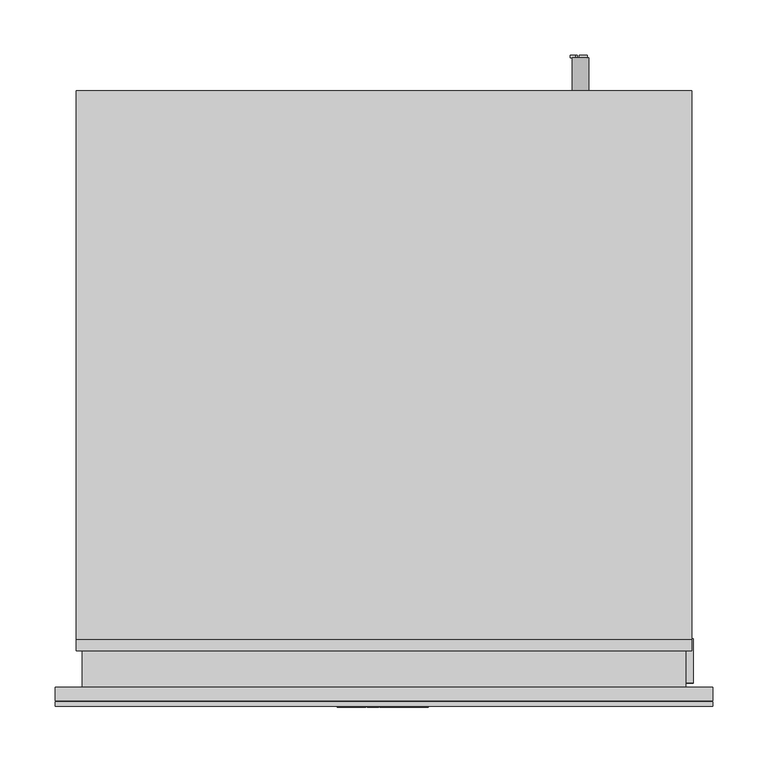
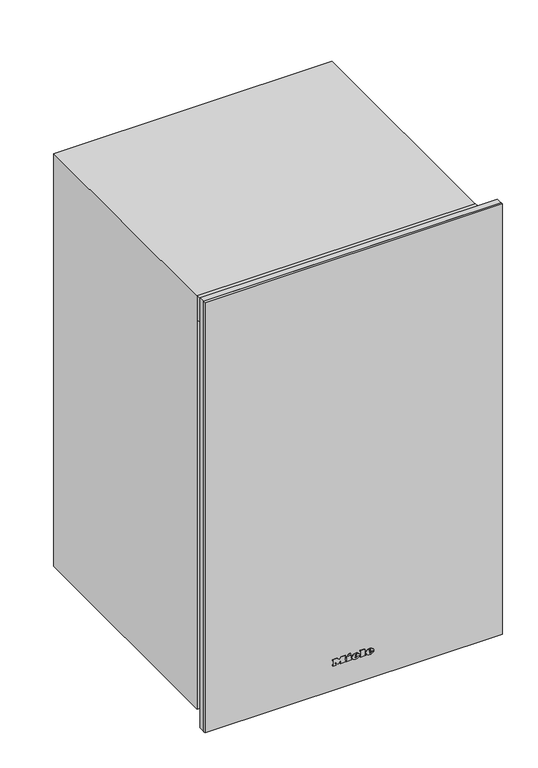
"""IFC4 building model written with IfcOpenShell, lengths in millimetres: proxy geometry, 12615910_EU1_KWT6422iG-1_PEBE : 36642228_EU1_12615910_KWT6422iG-1_PEBE."""

import ifcopenshell
import ifcopenshell.guid

model = None  # the IFC model being written
_history = None  # IfcOwnerHistory: only IFC2X3 demands one
_inside = {}  # id of a spatial element -> (the spatial element, [elements in it])
_under = {}  # id of a project, library or spatial element -> (it, [spatial elements below it])
_declared = {}  # id of a project -> (the project, [libraries it declares])
_typed = {}  # id of a type object -> (the type object, [elements of that type])
_made_of = {}  # id of a material, layer set ... -> (it, [elements and type objects made of it])


def new_model(schema):
    """Start an empty IFC model of exactly this schema.

    Asked for "IFC4X3", IfcOpenShell would pick the latest addendum, in which some entities
    have other attributes; the version numbers below select the first issue.
    IFC2X3 requires an IfcOwnerHistory on every rooted entity: one is made here for all.
    """
    global model, _history
    if schema == "IFC4X3":
        model = ifcopenshell.file(schema_version=(4, 3, 0, 0))
    else:
        model = ifcopenshell.file(schema=schema)
    _inside.clear()
    _under.clear()
    _declared.clear()
    _typed.clear()
    _made_of.clear()
    _history = None
    if model.schema == "IFC2X3":
        org = make("IfcOrganization", Name="unknown")
        user = make(
            "IfcPersonAndOrganization",
            ThePerson=make("IfcPerson", FamilyName="unknown"),
            TheOrganization=org,
        )
        app = make(
            "IfcApplication",
            ApplicationDeveloper=org,
            Version="unknown",
            ApplicationFullName="unknown",
            ApplicationIdentifier="unknown",
        )
        _history = make(
            "IfcOwnerHistory",
            OwningUser=user,
            OwningApplication=app,
            ChangeAction="ADDED",
            CreationDate=0,
        )
    return model


def make(cls, **values):
    """One entity of the class cls with the attributes given. An attribute that is None is left unset."""
    return model.create_entity(
        cls, **{name: value for name, value in values.items() if value is not None}
    )


def rooted(cls, **values):
    """An entity with a GlobalId (a new one), such as an element, a storey or a relation."""
    return make(cls, GlobalId=ifcopenshell.guid.new(), OwnerHistory=_history, **values)


def si_unit(unit_type, name, prefix=None):
    """IfcSIUnit, for example si_unit("LENGTHUNIT", "METRE", prefix="MILLI")."""
    return make("IfcSIUnit", UnitType=unit_type, Prefix=prefix, Name=name)


def assignment(units):
    """IfcUnitAssignment: the units of a project."""
    return None if units is None else make("IfcUnitAssignment", Units=units)


def point(xyz):
    """IfcCartesianPoint."""
    return None if xyz is None else make("IfcCartesianPoint", Coordinates=xyz)


def direction(xyz):
    """IfcDirection."""
    return None if xyz is None else make("IfcDirection", DirectionRatios=xyz)


def frame(location, z_axis=None, x_axis=None):
    """IfcAxis2Placement3D, a coordinate frame: its origin and axes. An axis left out is left unset."""
    return make(
        "IfcAxis2Placement3D",
        Location=point(location),
        Axis=direction(z_axis),
        RefDirection=direction(x_axis),
    )


def frame_2d(location, x_axis=None):
    """IfcAxis2Placement2D, a coordinate frame in the plane: its origin and x axis."""
    return make(
        "IfcAxis2Placement2D", Location=point(location), RefDirection=direction(x_axis)
    )


def origin():
    """The frame at (0, 0, 0) with its axes left unset."""
    return frame((0.0, 0.0, 0.0))


def place(relative_to, where):
    """IfcLocalPlacement: puts the frame where relative to a parent placement (None: the world)."""
    return make(
        "IfcLocalPlacement", PlacementRelTo=relative_to, RelativePlacement=where
    )


def context(
    kind, dimensions, precision=None, world=None, true_north=None, identifier=None
):
    """IfcGeometricRepresentationContext, for example the 3D "Model" context."""
    return make(
        "IfcGeometricRepresentationContext",
        ContextIdentifier=identifier,
        ContextType=kind,
        CoordinateSpaceDimension=dimensions,
        Precision=precision,
        WorldCoordinateSystem=world,
        TrueNorth=true_north,
    )


def project(units=None, contexts=None):
    """IfcProject with its units and contexts."""
    return rooted(
        "IfcProject",
        Name="project",
        RepresentationContexts=contexts,
        UnitsInContext=assignment(units),
    )


def spatial(cls, under=None, at=None, **own):
    """A site, building, storey or space (cls), placed at a placement, below another one or the project."""
    s = rooted(cls, ObjectPlacement=at, **own)
    if under is not None:
        _under.setdefault(under.id(), (under, []))[1].append(s)
    return s


def polyline(points):
    """IfcPolyline through the points."""
    return make("IfcPolyline", Points=[point(p) for p in points])


def circle_curve(where, radius):
    """IfcCircle in the frame where."""
    return make("IfcCircle", Position=where, Radius=radius)


def ellipse_curve(where, semi_axis1, semi_axis2):
    """IfcEllipse in the frame where."""
    return make(
        "IfcEllipse", Position=where, SemiAxis1=semi_axis1, SemiAxis2=semi_axis2
    )


def trimmed(basis, trim1, trim2, sense, master):
    """IfcTrimmedCurve: the piece of a basis curve between two trims."""
    return make(
        "IfcTrimmedCurve",
        BasisCurve=basis,
        Trim1=trim1,
        Trim2=trim2,
        SenseAgreement=sense,
        MasterRepresentation=master,
    )


def segment(curve, same_sense, transition):
    """IfcCompositeCurveSegment."""
    return make(
        "IfcCompositeCurveSegment",
        Transition=transition,
        SameSense=same_sense,
        ParentCurve=curve,
    )


def composite_curve(segments, self_intersect=None):
    """IfcCompositeCurve: segments joined end to end."""
    return make("IfcCompositeCurve", Segments=segments, SelfIntersect=self_intersect)


def outline(outer, holes=None, kind="AREA"):
    """IfcArbitraryClosedProfileDef: a profile drawn as a closed curve; with holes, ...WithVoids."""
    if holes is None:
        return make("IfcArbitraryClosedProfileDef", ProfileType=kind, OuterCurve=outer)
    return make(
        "IfcArbitraryProfileDefWithVoids",
        ProfileType=kind,
        OuterCurve=outer,
        InnerCurves=holes,
    )


def extrude(swept, where, along, depth):
    """IfcExtrudedAreaSolid: the profile swept, set in the frame where, extruded along a direction by depth."""
    return make(
        "IfcExtrudedAreaSolid",
        SweptArea=swept,
        Position=where,
        ExtrudedDirection=direction(along),
        Depth=depth,
    )


def faces_of(points, faces, orient=None, outer=None):
    """IfcFace entities. A face is a list of loops; a loop is a list of indices into points, from 0.

    orient and outer hold one flag for each loop. By default every Orientation is true, the
    first loop of a face is its IfcFaceOuterBound and the others are IfcFaceBound.
    """
    made = []
    for i, loops in enumerate(faces):
        bounds = []
        for j, loop in enumerate(loops):
            is_outer = j == 0 if outer is None else outer[i][j]
            bounds.append(
                make(
                    "IfcFaceOuterBound" if is_outer else "IfcFaceBound",
                    Bound=make("IfcPolyLoop", Polygon=[points[k] for k in loop]),
                    Orientation=True if orient is None else orient[i][j],
                )
            )
        made.append(make("IfcFace", Bounds=bounds))
    return made


def faceted_brep(points, faces, orient=None, outer=None, voids=None):
    """IfcFacetedBrep: a solid bounded by flat faces; with voids (closed shells), ...WithVoids."""
    shared = [point(p) for p in points]
    hull = make("IfcClosedShell", CfsFaces=faces_of(shared, faces, orient, outer))
    if voids is None:
        return make("IfcFacetedBrep", Outer=hull)
    return make(
        "IfcFacetedBrepWithVoids",
        Outer=hull,
        Voids=[
            make(cls, CfsFaces=faces_of(shared, fs, o, b)) for cls, fs, o, b in voids
        ],
    )


def shape(context_of_items, identifier, shape_type, items):
    """IfcShapeRepresentation: the items that make up one representation, for example the "Body"."""
    return make(
        "IfcShapeRepresentation",
        ContextOfItems=context_of_items,
        RepresentationIdentifier=identifier,
        RepresentationType=shape_type,
        Items=items,
    )


def source(mapping_origin, context_of_items, identifier, shape_type, items):
    """IfcRepresentationMap: a shape defined once, which mapped items show again and again."""
    return make(
        "IfcRepresentationMap",
        MappingOrigin=mapping_origin,
        MappedRepresentation=shape(context_of_items, identifier, shape_type, items),
    )


def transform(
    local_origin,
    x_axis=None,
    y_axis=None,
    z_axis=None,
    scale=None,
    scale2=None,
    scale3=None,
    uniform=True,
):
    """IfcCartesianTransformationOperator3D, or its non-uniform kind. x_axis, y_axis, z_axis: its Axis1, 2, 3."""
    if uniform:
        return make(
            "IfcCartesianTransformationOperator3D",
            Axis1=direction(x_axis),
            Axis2=direction(y_axis),
            LocalOrigin=point(local_origin),
            Scale=scale,
            Axis3=direction(z_axis),
        )
    return make(
        "IfcCartesianTransformationOperator3DnonUniform",
        Axis1=direction(x_axis),
        Axis2=direction(y_axis),
        LocalOrigin=point(local_origin),
        Scale=scale,
        Axis3=direction(z_axis),
        Scale2=scale2,
        Scale3=scale3,
    )


def mapped(mapping_source, mapping_target):
    """IfcMappedItem: shows the shape of a source again, moved by a transform."""
    return make(
        "IfcMappedItem", MappingSource=mapping_source, MappingTarget=mapping_target
    )


def made_of(thing, what):
    """Note that an element or type object is made of a material, layer set ...; save() writes the relation."""
    if what is not None:
        _made_of.setdefault(what.id(), (what, []))[1].append(thing)
    return thing


def element(
    cls,
    number,
    at=None,
    inside=None,
    cuts=None,
    type_object=None,
    material=None,
    context=None,
    identifier="Body",
    shape_type=None,
    held_by="IfcProductDefinitionShape",
    body=None,
    shapes=None,
    **own,
):
    """One element of the class cls, such as IfcWall. Its Tag is "e" and its number.

    at: its placement. inside: the storey or other place that contains it. cuts: it is an
    opening in that element (IfcRelVoidsElement). A single representation is given by context,
    identifier, shape_type and body (its items); several are given by shapes. held_by: the class
    of the entity that holds the representations. save() writes the other relations.
    """
    e = rooted(cls, Tag="e%d" % number, ObjectPlacement=at, **own)
    if body is not None:
        shapes = [shape(context, identifier, shape_type, body)]
    if shapes is not None:
        e.Representation = make(held_by, Representations=shapes)
    if inside is not None:
        _inside.setdefault(inside.id(), (inside, []))[1].append(e)
    if cuts is not None:
        rooted(
            "IfcRelVoidsElement", RelatingBuildingElement=cuts, RelatedOpeningElement=e
        )
    if type_object is not None:
        _typed.setdefault(type_object.id(), (type_object, []))[1].append(e)
    return made_of(e, material)


def aggregate(whole, parts):
    """IfcRelAggregates: a whole, such as a stair, and the parts it consists of."""
    return rooted("IfcRelAggregates", RelatingObject=whole, RelatedObjects=parts)


def save(model, path):
    """Write the relations noted so far, then the file.

    IfcRelAggregates (storeys below a building ...), IfcRelContainedInSpatialStructure (elements
    in a storey), IfcRelDefinesByType, IfcRelAssociatesMaterial and IfcRelDeclares: one each for
    every whole, place, type object, material and project.
    """
    for whole, parts in _under.values():
        aggregate(whole, parts)
    for where, things in _inside.values():
        rooted(
            "IfcRelContainedInSpatialStructure",
            RelatedElements=things,
            RelatingStructure=where,
        )
    for kind, things in _typed.values():
        rooted("IfcRelDefinesByType", RelatedObjects=things, RelatingType=kind)
    for what, things in _made_of.values():
        rooted("IfcRelAssociatesMaterial", RelatedObjects=things, RelatingMaterial=what)
    for by, libraries in _declared.values():
        rooted("IfcRelDeclares", RelatingContext=by, RelatedDefinitions=libraries)
    model.write(path)


def plane_surface(at):
    """IfcPlane: the flat surface through the origin of the frame at, square to its z axis."""
    return make("IfcPlane", Position=at)


def cylinder_surface(at, radius):
    """IfcCylindricalSurface: all points at the distance radius from the z axis of the frame at."""
    return make("IfcCylindricalSurface", Position=at, Radius=radius)


def revolved_surface(curve, axis_point, axis_direction):
    """IfcSurfaceOfRevolution: the curve turned about the line through axis_point along axis_direction."""
    return make(
        "IfcSurfaceOfRevolution",
        SweptCurve=make("IfcArbitraryOpenProfileDef", ProfileType="CURVE", Curve=curve),
        AxisPosition=make("IfcAxis1Placement", Location=point(axis_point), Axis=direction(axis_direction)),
    )


def extruded_surface(curve, direction_of_extrusion, depth):
    """IfcSurfaceOfLinearExtrusion: the curve pushed along a direction by depth."""
    return make(
        "IfcSurfaceOfLinearExtrusion",
        SweptCurve=make("IfcArbitraryOpenProfileDef", ProfileType="CURVE", Curve=curve),
        ExtrudedDirection=direction(direction_of_extrusion),
        Depth=depth,
    )


def advanced_brep(points, edges, surfaces, faces):
    """IfcAdvancedBrep: a solid bounded by faces that lie on surfaces and meet in shared edges.

    An edge is (start, end): straight between two places in points (the first is 0);
    or (start, end, curve); or (start, end, curve, False) where it runs against its curve.
    A face is (place in surfaces, loops), or (place, loops, False) where it looks against
    its surface's normal. A loop lists edges by number (the first is 1), with a minus sign
    where the edge is run from its end to its start. The first loop is the outer one.
    """
    corners = [point(p) for p in points]
    vertices = [make("IfcVertexPoint", VertexGeometry=c) for c in corners]
    made = []
    for start, end, *more in edges:
        made.append(
            make(
                "IfcEdgeCurve",
                EdgeStart=vertices[start],
                EdgeEnd=vertices[end],
                EdgeGeometry=more[0] if more else make("IfcPolyline", Points=[corners[start], corners[end]]),
                SameSense=more[1] if len(more) > 1 else True,
            )
        )
    hull = []
    for where, loops, *sense in faces:
        bounds = []
        for j, loop in enumerate(loops):
            ring = [make("IfcOrientedEdge", EdgeElement=made[abs(k) - 1], Orientation=k > 0) for k in loop]
            bounds.append(
                make(
                    "IfcFaceOuterBound" if j == 0 else "IfcFaceBound",
                    Bound=make("IfcEdgeLoop", EdgeList=ring),
                    Orientation=True,
                )
            )
        hull.append(make("IfcAdvancedFace", Bounds=bounds, FaceSurface=surfaces[where], SameSense=sense[0] if sense else True))
    return make("IfcAdvancedBrep", Outer=make("IfcClosedShell", CfsFaces=hull))


def specialty_equipment_434683bb(model_context):
    return source(origin(), model_context, "Body", "SolidModel", [
        advanced_brep(
        [(30.9909978, -1.0, 48.1245173), (30.9909978, -1.0, 49.4880173), (40.0224978, -1.0, 49.4880173), (24.3084978, -1.0, 49.4880173), (28.0209978, -1.0, 44.9250173), (39.7929978, -1.0, 48.1245173), (35.7159978, -1.0, 48.1245173), (32.5029978, -1.0, 46.6125173), (30.9909978, -1.0, 51.2160173), (30.9909978, -1.0, 52.6875173), (33.2994978, -1.0, 52.6875173), (33.2994978, -1.0, 51.2160173), (30.9909978, 0.0, 48.1245173), (32.5029978, 0.0, 46.6125173), (35.7159978, 0.0, 48.1245173), (39.7929978, 0.0, 48.1245173), (28.0209978, 0.0, 44.9250173), (24.3084978, 0.0, 49.4880173), (40.0224978, 0.0, 49.4880173), (30.9909978, 0.0, 49.4880173), (30.9909978, 0.0, 51.2160173), (33.2994978, 0.0, 51.2160173), (33.2994978, 0.0, 52.6875173), (30.9909978, 0.0, 52.6875173)],
        [
            (0, 1),
            (1, 2),
            (2, 3, ellipse_curve(frame((32.1654978, -1.0, 49.4880173), z_axis=(0.0, -1.0, 0.0), x_axis=(-1.0, 0.0, 0.0)), 7.857, 6.4935)),
            (3, 4, circle_curve(frame((29.5330714, -1.0, 49.9470173), z_axis=(0.0, -1.0, 0.0), x_axis=(0.0, 0.0, -1.0)), 5.2446974)),
            (4, 5, circle_curve(frame((32.008212, -1.0, 53.5110173), z_axis=(0.0, -1.0, 0.0), x_axis=(0.0, 0.0, -1.0)), 9.46664)),
            (5, 6),
            (6, 7, circle_curve(frame((33.1629096, -1.0, 49.3800173), z_axis=(0.0, 1.0, 0.0), x_axis=(0.0, 0.0, -1.0)), 2.8450905)),
            (7, 0, circle_curve(frame((32.5029978, -1.0, 48.1245173), z_axis=(0.0, 1.0, 0.0), x_axis=(0.0, 0.0, -1.0)), 1.512)),
            (8, 9),
            (9, 10, circle_curve(frame((32.1452478, -1.0, 52.6875173), z_axis=(0.0, 1.0, 0.0), x_axis=(0.0, 0.0, -1.0)), 1.15425)),
            (10, 11),
            (11, 8),
            (12, 13, circle_curve(frame((32.5029978, 0.0, 48.1245173), z_axis=(0.0, -1.0, 0.0), x_axis=(0.0, 0.0, -1.0)), 1.512)),
            (13, 14, circle_curve(frame((33.1629096, 0.0, 49.3800173), z_axis=(0.0, -1.0, 0.0), x_axis=(0.0, 0.0, -1.0)), 2.8450905)),
            (14, 15),
            (15, 16, circle_curve(frame((32.008212, 0.0, 53.5110173), z_axis=(0.0, 1.0, 0.0), x_axis=(0.0, 0.0, -1.0)), 9.46664)),
            (16, 17, circle_curve(frame((29.5330714, 0.0, 49.9470173), z_axis=(0.0, 1.0, 0.0), x_axis=(0.0, 0.0, -1.0)), 5.2446974)),
            (17, 18, ellipse_curve(frame((32.1654978, 0.0, 49.4880173), z_axis=(0.0, 1.0, 0.0), x_axis=(-1.0, 0.0, 0.0)), 7.857, 6.4935)),
            (18, 19),
            (19, 12),
            (20, 21),
            (21, 22),
            (22, 23, circle_curve(frame((32.1452478, 0.0, 52.6875173), z_axis=(0.0, -1.0, 0.0), x_axis=(0.0, 0.0, -1.0)), 1.15425)),
            (23, 20),
            (0, 12),
            (19, 1),
            (18, 2),
            (5, 15),
            (14, 6),
            (17, 3),
            (13, 7),
            (16, 4),
            (8, 20),
            (23, 9),
            (22, 10),
            (21, 11),
        ],
        [
            plane_surface(frame((30.9909978, -1.0, 49.4880173), z_axis=(0.0, -1.0, 0.0), x_axis=(0.0, 0.0, 1.0))),
            plane_surface(frame((30.9909978, 0.0, 49.4880173), z_axis=(0.0, 1.0, 0.0), x_axis=(0.0, 0.0, -1.0))),
            plane_surface(frame((30.9909978, -1.0, 48.1245173), z_axis=(1.0, 0.0, 0.0), x_axis=(0.0, 1.0, 0.0))),
            plane_surface(frame((30.9909978, -1.0, 49.4880173), z_axis=(0.0, 0.0, -1.0), x_axis=(0.0, 1.0, 0.0))),
            plane_surface(frame((39.7929978, -1.0, 48.1245173), z_axis=(0.0, 0.0, 1.0), x_axis=(0.0, 1.0, 0.0))),
            extruded_surface(trimmed(ellipse_curve(frame((32.1654978, 1.0, 49.4880173), z_axis=(0.0, -1.0, 0.0), x_axis=(-1.0, 0.0, 0.0)), 7.857, 6.4935), [point((40.0224978, 1.0, 49.4880173))], [point((24.3084978, 1.0, 49.4880173))], True, "CARTESIAN"), (0.0, -1.0, 0.0), 1.0),
            revolved_surface(polyline([(33.1629096, 0.0, 46.5349268), (33.1629096, -1.0, 46.5349268)]), (33.1629096, 0.0, 49.3800173), (0.0, 1.0, 0.0)),
            revolved_surface(polyline([(32.5029978, 0.0, 46.6125173), (32.5029978, -1.0, 46.6125173)]), (32.5029978, 0.0, 48.1245173), (0.0, 1.0, 0.0)),
            cylinder_surface(frame((29.5330714, 0.0, 49.9470173), z_axis=(0.0, -1.0, 0.0), x_axis=(0.0, 0.0, -1.0)), 5.2446974),
            cylinder_surface(frame((32.008212, 0.0, 53.5110173), z_axis=(0.0, -1.0, 0.0), x_axis=(0.0, 0.0, -1.0)), 9.46664),
            plane_surface(frame((30.9909978, -1.0, 51.2160173), z_axis=(1.0, 0.0, 0.0), x_axis=(0.0, 1.0, 0.0))),
            revolved_surface(polyline([(32.1452478, 0.0, 51.533267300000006), (32.1452478, -1.0, 51.533267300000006)]), (32.1452478, 0.0, 52.6875173), (0.0, 1.0, 0.0)),
            plane_surface(frame((33.2994978, -1.0, 52.6875173), z_axis=(-1.0, 0.0, 0.0), x_axis=(0.0, 1.0, 0.0))),
            plane_surface(frame((33.2994978, -1.0, 51.2160173), z_axis=(0.0, 0.0, 1.0), x_axis=(0.0, 1.0, 0.0))),
        ],
        [
            (0, [[1, 2, 3, 4, 5, 6, 7, 8], [9, 10, 11, 12]]),
            (1, [[13, 14, 15, 16, 17, 18, 19, 20], [21, 22, 23, 24]]),
            (2, [[-1, 25, -20, 26]]),
            (3, [[-2, -26, -19, 27]]),
            (4, [[-6, 28, -15, 29]]),
            (5, [[-3, -27, -18, 30]]),
            (6, [[-7, -29, -14, 31]]),
            (7, [[-8, -31, -13, -25]]),
            (8, [[-4, -30, -17, 32]]),
            (9, [[-5, -32, -16, -28]]),
            (10, [[-9, 33, -24, 34]]),
            (11, [[-10, -34, -23, 35]]),
            (12, [[-11, -35, -22, 36]]),
            (13, [[-12, -36, -21, -33]]),
        ],
    ),
        advanced_brep(
        [(2.8164978, -1.0, 48.1245173), (2.8164978, -1.0, 49.4880173), (11.8479978, -1.0, 49.4880173), (-3.8660022, -1.0, 49.4880173), (-0.1535022, -1.0, 44.9250173), (11.6184978, -1.0, 48.1245173), (7.5414978, -1.0, 48.1245173), (4.3284978, -1.0, 46.6125173), (2.8164978, -1.0, 51.2160173), (2.8164978, -1.0, 52.6875173), (5.1249978, -1.0, 52.6875173), (5.1249978, -1.0, 51.2160173), (2.8164978, 0.0, 48.1245173), (4.3284978, 0.0, 46.6125173), (7.5414978, 0.0, 48.1245173), (11.6184978, 0.0, 48.1245173), (-0.1535022, 0.0, 44.9250173), (-3.8660022, 0.0, 49.4880173), (11.8479978, 0.0, 49.4880173), (2.8164978, 0.0, 49.4880173), (2.8164978, 0.0, 51.2160173), (5.1249978, 0.0, 51.2160173), (5.1249978, 0.0, 52.6875173), (2.8164978, 0.0, 52.6875173)],
        [
            (0, 1),
            (1, 2),
            (2, 3, ellipse_curve(frame((3.9909978, -1.0, 49.4880173), z_axis=(0.0, -1.0, 0.0), x_axis=(-1.0, 0.0, 0.0)), 7.857, 6.4935)),
            (3, 4, circle_curve(frame((1.3585714, -1.0, 49.9470173), z_axis=(0.0, -1.0, 0.0), x_axis=(0.0, 0.0, -1.0)), 5.2446974)),
            (4, 5, circle_curve(frame((3.833712, -1.0, 53.5110173), z_axis=(0.0, -1.0, 0.0), x_axis=(0.0, 0.0, -1.0)), 9.46664)),
            (5, 6),
            (6, 7, circle_curve(frame((4.9884096, -1.0, 49.3800173), z_axis=(0.0, 1.0, 0.0), x_axis=(0.0, 0.0, -1.0)), 2.8450905)),
            (7, 0, circle_curve(frame((4.3284978, -1.0, 48.1245173), z_axis=(0.0, 1.0, 0.0), x_axis=(0.0, 0.0, -1.0)), 1.512)),
            (8, 9),
            (9, 10, circle_curve(frame((3.9707478, -1.0, 52.6875173), z_axis=(0.0, 1.0, 0.0), x_axis=(0.0, 0.0, -1.0)), 1.15425)),
            (10, 11),
            (11, 8),
            (12, 13, circle_curve(frame((4.3284978, 0.0, 48.1245173), z_axis=(0.0, -1.0, 0.0), x_axis=(0.0, 0.0, -1.0)), 1.512)),
            (13, 14, circle_curve(frame((4.9884096, 0.0, 49.3800173), z_axis=(0.0, -1.0, 0.0), x_axis=(0.0, 0.0, -1.0)), 2.8450905)),
            (14, 15),
            (15, 16, circle_curve(frame((3.833712, 0.0, 53.5110173), z_axis=(0.0, 1.0, 0.0), x_axis=(0.0, 0.0, -1.0)), 9.46664)),
            (16, 17, circle_curve(frame((1.3585714, 0.0, 49.9470173), z_axis=(0.0, 1.0, 0.0), x_axis=(0.0, 0.0, -1.0)), 5.2446974)),
            (17, 18, ellipse_curve(frame((3.9909978, 0.0, 49.4880173), z_axis=(0.0, 1.0, 0.0), x_axis=(-1.0, 0.0, 0.0)), 7.857, 6.4935)),
            (18, 19),
            (19, 12),
            (20, 21),
            (21, 22),
            (22, 23, circle_curve(frame((3.9707478, 0.0, 52.6875173), z_axis=(0.0, -1.0, 0.0), x_axis=(0.0, 0.0, -1.0)), 1.15425)),
            (23, 20),
            (0, 12),
            (19, 1),
            (18, 2),
            (5, 15),
            (14, 6),
            (17, 3),
            (13, 7),
            (16, 4),
            (8, 20),
            (23, 9),
            (22, 10),
            (21, 11),
        ],
        [
            plane_surface(frame((2.8164978, -1.0, 49.4880173), z_axis=(0.0, -1.0, 0.0), x_axis=(0.0, 0.0, 1.0))),
            plane_surface(frame((2.8164978, 0.0, 49.4880173), z_axis=(0.0, 1.0, 0.0), x_axis=(0.0, 0.0, -1.0))),
            plane_surface(frame((2.8164978, -1.0, 48.1245173), z_axis=(1.0, 0.0, 0.0), x_axis=(0.0, 1.0, 0.0))),
            plane_surface(frame((2.8164978, -1.0, 49.4880173), z_axis=(0.0, 0.0, -1.0), x_axis=(0.0, 1.0, 0.0))),
            plane_surface(frame((11.6184978, -1.0, 48.1245173), z_axis=(0.0, 0.0, 1.0), x_axis=(0.0, 1.0, 0.0))),
            extruded_surface(trimmed(ellipse_curve(frame((3.9909978, 1.0, 49.4880173), z_axis=(0.0, -1.0, 0.0), x_axis=(-1.0, 0.0, 0.0)), 7.857, 6.4935), [point((11.8479978, 1.0, 49.4880173))], [point((-3.8660022, 1.0, 49.4880173))], True, "CARTESIAN"), (0.0, -1.0, 0.0), 1.0),
            revolved_surface(polyline([(4.9884096, 0.0, 46.5349268), (4.9884096, -1.0, 46.5349268)]), (4.9884096, 0.0, 49.3800173), (0.0, 1.0, 0.0)),
            revolved_surface(polyline([(4.3284978, 0.0, 46.6125173), (4.3284978, -1.0, 46.6125173)]), (4.3284978, 0.0, 48.1245173), (0.0, 1.0, 0.0)),
            cylinder_surface(frame((1.3585714, 0.0, 49.9470173), z_axis=(0.0, -1.0, 0.0), x_axis=(0.0, 0.0, -1.0)), 5.2446974),
            cylinder_surface(frame((3.833712, 0.0, 53.5110173), z_axis=(0.0, -1.0, 0.0), x_axis=(0.0, 0.0, -1.0)), 9.46664),
            plane_surface(frame((2.8164978, -1.0, 51.2160173), z_axis=(1.0, 0.0, 0.0), x_axis=(0.0, 1.0, 0.0))),
            revolved_surface(polyline([(3.9707478, 0.0, 51.533267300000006), (3.9707478, -1.0, 51.533267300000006)]), (3.9707478, 0.0, 52.6875173), (0.0, 1.0, 0.0)),
            plane_surface(frame((5.1249978, -1.0, 52.6875173), z_axis=(-1.0, 0.0, 0.0), x_axis=(0.0, 1.0, 0.0))),
            plane_surface(frame((5.1249978, -1.0, 51.2160173), z_axis=(0.0, 0.0, 1.0), x_axis=(0.0, 1.0, 0.0))),
        ],
        [
            (0, [[1, 2, 3, 4, 5, 6, 7, 8], [9, 10, 11, 12]]),
            (1, [[13, 14, 15, 16, 17, 18, 19, 20], [21, 22, 23, 24]]),
            (2, [[-1, 25, -20, 26]]),
            (3, [[-2, -26, -19, 27]]),
            (4, [[-6, 28, -15, 29]]),
            (5, [[-3, -27, -18, 30]]),
            (6, [[-7, -29, -14, 31]]),
            (7, [[-8, -31, -13, -25]]),
            (8, [[-4, -30, -17, 32]]),
            (9, [[-5, -32, -16, -28]]),
            (10, [[-9, 33, -24, 34]]),
            (11, [[-10, -34, -23, 35]]),
            (12, [[-11, -35, -22, 36]]),
            (13, [[-12, -36, -21, -33]]),
        ],
    ),
        extrude(outline(polyline([(57.6285173, -11.9390022), (55.4415173, -10.9130022), (57.5745173, -6.3365022), (59.7615173, -7.3490022), (57.6285173, -11.9390022)])), frame((0.0, -1.0, 0.0), z_axis=(0.0, 1.0, 0.0), x_axis=(0.0, 0.0, 1.0)), (0.0, 0.0, 1.0), 1.0),
        extrude(outline(polyline([(55.1445173, -15.2735022), (52.7280173, -15.2735022), (52.7280173, -13.6670022), (47.1930173, -13.6670022), (47.1930173, -15.2735022), (44.9250173, -15.2735022), (44.9250173, -4.6220022), (47.1930173, -4.6220022), (47.1930173, -6.1880022), (55.1445173, -6.1880022), (55.1445173, -15.2735022)])), frame((0.0, -1.0, 0.0), z_axis=(0.0, 1.0, 0.0), x_axis=(0.0, 0.0, 1.0)), (0.0, 0.0, 1.0), 1.0),
        extrude(outline(polyline([(56.2245173, 12.6039978), (56.2245173, 14.2239978), (47.1930173, 14.2239978), (47.1930173, 12.6039978), (44.9250173, 12.6039978), (44.9250173, 23.5524978), (47.1930173, 23.5524978), (47.1930173, 21.8919978), (58.4250173, 21.8919978), (58.4250173, 12.6039978), (56.2245173, 12.6039978)])), frame((0.0, -1.0, 0.0), z_axis=(0.0, 1.0, 0.0), x_axis=(0.0, 0.0, 1.0)), (0.0, 0.0, 1.0), 1.0),
        extrude(outline(polyline([(56.2245173, -42.1790022), (56.2245173, -40.5455022), (47.1930173, -40.5455022), (47.1930173, -42.1790022), (44.9250173, -42.1790022), (44.9250173, -36.2390022), (47.1930173, -36.2390022), (47.1930173, -37.8590022), (52.900642, -37.8590022), (44.9250173, -31.8245022), (53.1777396, -25.7630022), (47.1930173, -25.7630022), (47.1930173, -27.4235022), (44.9250173, -27.4235022), (44.9250173, -16.6505022), (47.1930173, -16.6505022), (47.1930173, -18.3650022), (56.2245173, -18.3650022), (56.2245173, -16.6505022), (58.4250173, -16.6505022), (58.4250173, -24.8720022), (53.3625173, -28.8140022), (58.4250173, -32.7695022), (58.4250173, -42.1790022), (56.2245173, -42.1790022)])), frame((0.0, -1.0, 0.0), z_axis=(0.0, 1.0, 0.0), x_axis=(0.0, 0.0, 1.0)), (0.0, 0.0, 1.0), 1.0),
        extrude(outline(polyline([(0.0, -5.0), (0.0, 0.0), (342.0, 0.0), (342.0, -5.0), (0.0, -5.0)])), frame((171.0, 69.1703709, 491.2940952), z_axis=(0.0, 0.2588190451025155, 0.9659258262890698), x_axis=(-1.0, 0.0, 0.0)), (0.0, 0.0, 1.0), 48.0),
        extrude(outline(composite_curve([segment(trimmed(circle_curve(frame_2d((52.0, 178.0)), 7.5), [point((52.0, 185.5))], [point((52.0, 170.5))], False, "CARTESIAN"), True, "CONTINUOUS"), segment(trimmed(circle_curve(frame_2d((52.0, 178.0)), 7.5), [point((52.0, 170.5))], [point((52.0, 185.5))], False, "CARTESIAN"), True, "CONTINUOUS")], self_intersect=False)), frame((0.0, 557.0, 0.0), z_axis=(0.0, 1.0, 0.0), x_axis=(0.0, 0.0, 1.0)), (0.0, 0.0, 1.0), 30.0),
        faceted_brep([(278.5, 557.0, 872.0), (-278.5, 557.0, 872.0), (-278.5, 60.0, 872.0), (278.5, 60.0, 872.0), (278.5, 557.0, 0.0), (278.5, 60.0, 0.0), (-278.5, 60.0, 0.0), (-278.5, 557.0, 0.0), (-232.5, 60.0, 782.0), (232.5, 60.0, 782.0), (232.5, 60.0, 80.0), (-232.5, 60.0, 80.0), (232.5, 460.0, 782.0), (-232.5, 460.0, 782.0), (-232.5, 460.0, 80.0), (232.5, 460.0, 80.0)], [[[0, 1, 2, 3]], [[4, 5, 6, 7]], [[1, 0, 4, 7]], [[2, 1, 7, 6]], [[3, 2, 6, 5], [8, 9, 10, 11]], [[0, 3, 5, 4]], [[12, 13, 14, 15]], [[13, 12, 9, 8]], [[14, 13, 8, 11]], [[15, 14, 11, 10]], [[12, 15, 10, 9]]]),
        extrude(outline(polyline([(232.5, 339.0), (-232.5, 339.0), (-232.5, 460.0), (232.5, 460.0), (232.5, 339.0)])), frame((0.0, 0.0, 80.0), z_axis=(0.0, 0.0, 1.0), x_axis=(1.0, 0.0, 0.0)), (0.0, 0.0, 1.0), 205.0),
        extrude(outline(polyline([(232.5, 460.0), (232.5, 400.0), (-232.5, 400.0), (-232.5, 460.0), (232.5, 460.0)])), frame((0.0, 0.0, 354.9519517), z_axis=(0.0, 0.0, 1.0), x_axis=(1.0, 0.0, 0.0)), (0.0, 0.0, 1.0), 119.0480483),
        extrude(outline(polyline([(400.0, 634.0), (400.0, 752.0), (60.0, 752.0), (60.0, 782.0), (460.0, 782.0), (460.0, 634.0), (400.0, 634.0)])), frame((-232.5, 0.0, 0.0), z_axis=(1.0, 0.0, 0.0), x_axis=(0.0, 1.0, 0.0)), (0.0, 0.0, 1.0), 465.0),
        extrude(outline(polyline([(47.2618945, 184.0941573), (57.3075256, 184.0941573), (57.3075256, 176.87386), (56.0518217, 176.87386), (56.0518217, 182.8384535), (53.069525, 182.8384535), (53.069525, 177.187786), (51.8138211, 177.187786), (51.8138211, 182.8384535), (48.5175984, 182.8384535), (48.5175984, 176.7168971), (47.2618945, 176.7168971), (47.2618945, 184.0941573)])), frame((0.0, 587.0, 0.0), z_axis=(0.0, 1.0, 0.0), x_axis=(0.0, 0.0, 1.0)), (0.0, 0.0, 1.0), 2.0),
        extrude(outline(polyline([(47.2618945, 174.8333412), (57.3075256, 174.8333412), (57.3075256, 173.5776374), (48.5175984, 173.5776374), (48.5175984, 168.5548219), (47.2618945, 168.5548219), (47.2618945, 174.8333412)])), frame((0.0, 587.0, 0.0), z_axis=(0.0, 1.0, 0.0), x_axis=(0.0, 0.0, 1.0)), (0.0, 0.0, 1.0), 2.0),
        extrude(outline(polyline([(-278.5, 60.0), (278.5, 60.0), (278.5, 50.0), (-278.5, 50.0), (-278.5, 60.0)])), frame((0.0, 0.0, 823.0), z_axis=(0.0, 0.0, 1.0), x_axis=(1.0, 0.0, 0.0)), (0.0, 0.0, 1.0), 50.0),
        extrude(outline(polyline([(10.0, 67.0438353), (-10.0, 67.0438353), (-10.0, 400.0), (10.0, 400.0), (10.0, 67.0438353)])), frame((0.0, 0.0, 373.0), z_axis=(0.0, 0.0, 1.0), x_axis=(1.0, 0.0, 0.0)), (0.0, 0.0, 1.0), 10.0),
        extrude(outline(polyline([(-40.625, 67.0438353), (-60.625, 67.0438353), (-60.625, 400.0), (-40.625, 400.0), (-40.625, 67.0438353)])), frame((0.0, 0.0, 373.0), z_axis=(0.0, 0.0, 1.0), x_axis=(1.0, 0.0, 0.0)), (0.0, 0.0, 1.0), 10.0),
        extrude(outline(polyline([(-91.25, 67.0438353), (-111.25, 67.0438353), (-111.25, 400.0), (-91.25, 400.0), (-91.25, 67.0438353)])), frame((0.0, 0.0, 373.0), z_axis=(0.0, 0.0, 1.0), x_axis=(1.0, 0.0, 0.0)), (0.0, 0.0, 1.0), 10.0),
        extrude(outline(polyline([(-141.875, 67.0438353), (-161.875, 67.0438353), (-161.875, 400.0), (-141.875, 400.0), (-141.875, 67.0438353)])), frame((0.0, 0.0, 373.0), z_axis=(0.0, 0.0, 1.0), x_axis=(1.0, 0.0, 0.0)), (0.0, 0.0, 1.0), 10.0),
        extrude(outline(polyline([(-192.5, 67.0438353), (-212.5, 67.0438353), (-212.5, 400.0), (-192.5, 400.0), (-192.5, 67.0438353)])), frame((0.0, 0.0, 373.0), z_axis=(0.0, 0.0, 1.0), x_axis=(1.0, 0.0, 0.0)), (0.0, 0.0, 1.0), 10.0),
        extrude(outline(polyline([(60.625, 67.0438353), (40.625, 67.0438353), (40.625, 400.0), (60.625, 400.0), (60.625, 67.0438353)])), frame((0.0, 0.0, 373.0), z_axis=(0.0, 0.0, 1.0), x_axis=(1.0, 0.0, 0.0)), (0.0, 0.0, 1.0), 10.0),
        extrude(outline(polyline([(111.25, 67.0438353), (91.25, 67.0438353), (91.25, 400.0), (111.25, 400.0), (111.25, 67.0438353)])), frame((0.0, 0.0, 373.0), z_axis=(0.0, 0.0, 1.0), x_axis=(1.0, 0.0, 0.0)), (0.0, 0.0, 1.0), 10.0),
        extrude(outline(polyline([(161.875, 67.0438353), (141.875, 67.0438353), (141.875, 400.0), (161.875, 400.0), (161.875, 67.0438353)])), frame((0.0, 0.0, 373.0), z_axis=(0.0, 0.0, 1.0), x_axis=(1.0, 0.0, 0.0)), (0.0, 0.0, 1.0), 10.0),
        extrude(outline(polyline([(212.5, 67.0438353), (192.5, 67.0438353), (192.5, 400.0), (212.5, 400.0), (212.5, 67.0438353)])), frame((0.0, 0.0, 373.0), z_axis=(0.0, 0.0, 1.0), x_axis=(1.0, 0.0, 0.0)), (0.0, 0.0, 1.0), 10.0),
        extrude(outline(polyline([(10.0, 67.0438353), (-10.0, 67.0438353), (-10.0, 400.0), (10.0, 400.0), (10.0, 67.0438353)])), frame((0.0, 0.0, 654.0), z_axis=(0.0, 0.0, 1.0), x_axis=(1.0, 0.0, 0.0)), (0.0, 0.0, 1.0), 10.0),
        extrude(outline(polyline([(-40.625, 67.0438353), (-60.625, 67.0438353), (-60.625, 400.0), (-40.625, 400.0), (-40.625, 67.0438353)])), frame((0.0, 0.0, 654.0), z_axis=(0.0, 0.0, 1.0), x_axis=(1.0, 0.0, 0.0)), (0.0, 0.0, 1.0), 10.0),
        extrude(outline(polyline([(-91.25, 67.0438353), (-111.25, 67.0438353), (-111.25, 400.0), (-91.25, 400.0), (-91.25, 67.0438353)])), frame((0.0, 0.0, 654.0), z_axis=(0.0, 0.0, 1.0), x_axis=(1.0, 0.0, 0.0)), (0.0, 0.0, 1.0), 10.0),
        extrude(outline(polyline([(-141.875, 67.0438353), (-161.875, 67.0438353), (-161.875, 400.0), (-141.875, 400.0), (-141.875, 67.0438353)])), frame((0.0, 0.0, 654.0), z_axis=(0.0, 0.0, 1.0), x_axis=(1.0, 0.0, 0.0)), (0.0, 0.0, 1.0), 10.0),
        extrude(outline(polyline([(-192.5, 67.0438353), (-212.5, 67.0438353), (-212.5, 400.0), (-192.5, 400.0), (-192.5, 67.0438353)])), frame((0.0, 0.0, 654.0), z_axis=(0.0, 0.0, 1.0), x_axis=(1.0, 0.0, 0.0)), (0.0, 0.0, 1.0), 10.0),
        extrude(outline(polyline([(60.625, 67.0438353), (40.625, 67.0438353), (40.625, 400.0), (60.625, 400.0), (60.625, 67.0438353)])), frame((0.0, 0.0, 654.0), z_axis=(0.0, 0.0, 1.0), x_axis=(1.0, 0.0, 0.0)), (0.0, 0.0, 1.0), 10.0),
        extrude(outline(polyline([(111.25, 67.0438353), (91.25, 67.0438353), (91.25, 400.0), (111.25, 400.0), (111.25, 67.0438353)])), frame((0.0, 0.0, 654.0), z_axis=(0.0, 0.0, 1.0), x_axis=(1.0, 0.0, 0.0)), (0.0, 0.0, 1.0), 10.0),
        extrude(outline(polyline([(161.875, 67.0438353), (141.875, 67.0438353), (141.875, 400.0), (161.875, 400.0), (161.875, 67.0438353)])), frame((0.0, 0.0, 654.0), z_axis=(0.0, 0.0, 1.0), x_axis=(1.0, 0.0, 0.0)), (0.0, 0.0, 1.0), 10.0),
        extrude(outline(polyline([(212.5, 67.0438353), (192.5, 67.0438353), (192.5, 400.0), (212.5, 400.0), (212.5, 67.0438353)])), frame((0.0, 0.0, 654.0), z_axis=(0.0, 0.0, 1.0), x_axis=(1.0, 0.0, 0.0)), (0.0, 0.0, 1.0), 10.0),
        extrude(outline(polyline([(10.0, 64.8678355), (-10.0, 64.8678355), (-10.0, 339.0), (10.0, 339.0), (10.0, 64.8678355)])), frame((0.0, 0.0, 97.0), z_axis=(0.0, 0.0, 1.0), x_axis=(1.0, 0.0, 0.0)), (0.0, 0.0, 1.0), 10.0),
        extrude(outline(polyline([(-40.625, 64.8678355), (-60.625, 64.8678355), (-60.625, 339.0), (-40.625, 339.0), (-40.625, 64.8678355)])), frame((0.0, 0.0, 97.0), z_axis=(0.0, 0.0, 1.0), x_axis=(1.0, 0.0, 0.0)), (0.0, 0.0, 1.0), 10.0),
        extrude(outline(polyline([(-91.25, 64.8678355), (-111.25, 64.8678355), (-111.25, 339.0), (-91.25, 339.0), (-91.25, 64.8678355)])), frame((0.0, 0.0, 97.0), z_axis=(0.0, 0.0, 1.0), x_axis=(1.0, 0.0, 0.0)), (0.0, 0.0, 1.0), 10.0),
        extrude(outline(polyline([(-141.875, 64.8678355), (-161.875, 64.8678355), (-161.875, 339.0), (-141.875, 339.0), (-141.875, 64.8678355)])), frame((0.0, 0.0, 97.0), z_axis=(0.0, 0.0, 1.0), x_axis=(1.0, 0.0, 0.0)), (0.0, 0.0, 1.0), 10.0),
        extrude(outline(polyline([(-192.5, 64.8678355), (-212.5, 64.8678355), (-212.5, 339.0), (-192.5, 339.0), (-192.5, 64.8678355)])), frame((0.0, 0.0, 97.0), z_axis=(0.0, 0.0, 1.0), x_axis=(1.0, 0.0, 0.0)), (0.0, 0.0, 1.0), 10.0),
        extrude(outline(polyline([(60.625, 64.8678355), (40.625, 64.8678355), (40.625, 339.0), (60.625, 339.0), (60.625, 64.8678355)])), frame((0.0, 0.0, 97.0), z_axis=(0.0, 0.0, 1.0), x_axis=(1.0, 0.0, 0.0)), (0.0, 0.0, 1.0), 10.0),
        extrude(outline(polyline([(111.25, 64.8678355), (91.25, 64.8678355), (91.25, 339.0), (111.25, 339.0), (111.25, 64.8678355)])), frame((0.0, 0.0, 97.0), z_axis=(0.0, 0.0, 1.0), x_axis=(1.0, 0.0, 0.0)), (0.0, 0.0, 1.0), 10.0),
        extrude(outline(polyline([(161.875, 64.8678355), (141.875, 64.8678355), (141.875, 339.0), (161.875, 339.0), (161.875, 64.8678355)])), frame((0.0, 0.0, 97.0), z_axis=(0.0, 0.0, 1.0), x_axis=(1.0, 0.0, 0.0)), (0.0, 0.0, 1.0), 10.0),
        extrude(outline(polyline([(212.5, 64.8678355), (192.5, 64.8678355), (192.5, 339.0), (212.5, 339.0), (212.5, 64.8678355)])), frame((0.0, 0.0, 97.0), z_axis=(0.0, 0.0, 1.0), x_axis=(1.0, 0.0, 0.0)), (0.0, 0.0, 1.0), 10.0),
        extrude(outline(polyline([(70.0, 477.0), (70.0, 487.0), (86.0769515, 547.0), (460.0, 547.0), (460.0, 477.0), (70.0, 477.0)])), frame((-232.5, 0.0, 0.0), z_axis=(1.0, 0.0, 0.0), x_axis=(0.0, 1.0, 0.0)), (0.0, 0.0, 1.0), 465.0),
        extrude(outline(polyline([(70.0, 672.3781397), (70.0, 646.0), (60.0, 646.0), (60.0, 649.0), (60.8925608, 649.0), (60.8925608, 668.7661331), (60.0, 668.7661331), (60.0, 672.3781397), (70.0, 672.3781397)])), frame((-232.5, 0.0, 0.0), z_axis=(1.0, 0.0, 0.0), x_axis=(0.0, 1.0, 0.0)), (0.0, 0.0, 1.0), 465.0),
        extrude(outline(polyline([(70.0, 391.3781397), (70.0, 365.0), (60.0, 365.0), (60.0, 368.0), (60.8925608, 368.0), (60.8925608, 387.7661331), (60.0, 387.7661331), (60.0, 391.3781397), (70.0, 391.3781397)])), frame((-232.5, 0.0, 0.0), z_axis=(1.0, 0.0, 0.0), x_axis=(0.0, 1.0, 0.0)), (0.0, 0.0, 1.0), 465.0),
        extrude(outline(polyline([(70.0, 115.3781397), (70.0, 89.0), (60.0, 89.0), (60.0, 92.0), (60.8925608, 92.0), (60.8925608, 111.7661331), (60.0, 111.7661331), (60.0, 115.3781397), (70.0, 115.3781397)])), frame((-232.5, 0.0, 0.0), z_axis=(1.0, 0.0, 0.0), x_axis=(0.0, 1.0, 0.0)), (0.0, 0.0, 1.0), 465.0),
        extrude(outline(polyline([(13.0, 273.0), (867.0, 273.0), (867.0, -273.0), (13.0, -273.0), (13.0, 273.0)]), holes=[polyline([(754.0, 200.0), (117.0, 200.0), (117.0, -200.0), (754.0, -200.0), (754.0, 200.0)])]), frame((0.0, 17.0, 0.0), z_axis=(0.0, 1.0, 0.0), x_axis=(0.0, 0.0, 1.0)), (0.0, 0.0, 1.0), 44.0),
        extrude(outline(polyline([(-200.0, 61.0), (200.0, 61.0), (200.0, 17.0), (-200.0, 17.0), (-200.0, 61.0)])), frame((0.0, 0.0, 117.0), z_axis=(0.0, 0.0, 1.0), x_axis=(1.0, 0.0, 0.0)), (0.0, 0.0, 1.0), 637.0),
        extrude(outline(polyline([(184.0, 61.0), (280.0, 61.0), (280.0, 21.0), (184.0, 21.0), (184.0, 61.0)])), frame((0.0, 0.0, 831.0), z_axis=(0.0, 0.0, 1.0), x_axis=(1.0, 0.0, 0.0)), (0.0, 0.0, 1.0), 33.0),
        extrude(outline(polyline([(184.0, 61.0), (280.0, 61.0), (280.0, 21.0), (184.0, 21.0), (184.0, 61.0)])), frame((0.0, 0.0, 8.0), z_axis=(0.0, 0.0, 1.0), x_axis=(1.0, 0.0, 0.0)), (0.0, 0.0, 1.0), 33.0),
        extrude(outline(polyline([(297.5, 0.0), (-297.5, 0.0), (-297.5, 4.0), (297.5, 4.0), (297.5, 0.0)])), frame((0.0, 0.0, -7.0), z_axis=(0.0, 0.0, 1.0), x_axis=(1.0, 0.0, 0.0)), (0.0, 0.0, 1.0), 909.0),
        extrude(outline(polyline([(902.0, 297.5), (902.0, -297.5), (-7.0, -297.5), (-7.0, 297.5), (902.0, 297.5)]), holes=[polyline([(754.0, 200.0), (117.0, 200.0), (117.0, -200.0), (754.0, -200.0), (754.0, 200.0)])]), frame((0.0, 5.0, 0.0), z_axis=(0.0, 1.0, 0.0), x_axis=(0.0, 0.0, 1.0)), (0.0, 0.0, 1.0), 12.0),
        extrude(outline(polyline([(-200.0, 17.0), (200.0, 17.0), (200.0, 5.0), (-200.0, 5.0), (-200.0, 17.0)])), frame((0.0, 0.0, 117.0), z_axis=(0.0, 0.0, 1.0), x_axis=(1.0, 0.0, 0.0)), (0.0, 0.0, 1.0), 637.0),
    ])


if __name__ == "__main__":
    model = new_model("IFC4")
    model_context = context("Model", 3, world=origin())
    ifc_project = project(units=[si_unit("LENGTHUNIT", "METRE", prefix="MILLI")], contexts=[model_context])
    site = spatial("IfcSite", under=ifc_project)
    building = spatial("IfcBuilding", under=site)
    placement = place(None, origin())
    specialty_equipment_shape = specialty_equipment_434683bb(model_context)
    element("IfcBuildingElementProxy", 1, Name="12615910_EU1_KWT6422iG-1_PEBE : 36642228_EU1_12615910_KWT6422iG-1_PEBE", ObjectType="12615910_EU1_KWT6422iG-1_PEBE : 36642228_EU1_12615910_KWT6422iG-1_PEBE", at=placement, inside=building, context=model_context, shape_type="MappedRepresentation", body=[
        mapped(specialty_equipment_shape, transform((0.0, 0.0, 0.0), x_axis=(1.0, 0.0, 0.0), y_axis=(0.0, 1.0, 0.0), z_axis=(0.0, 0.0, 1.0))),
    ])
    save(model, "model.ifc")
